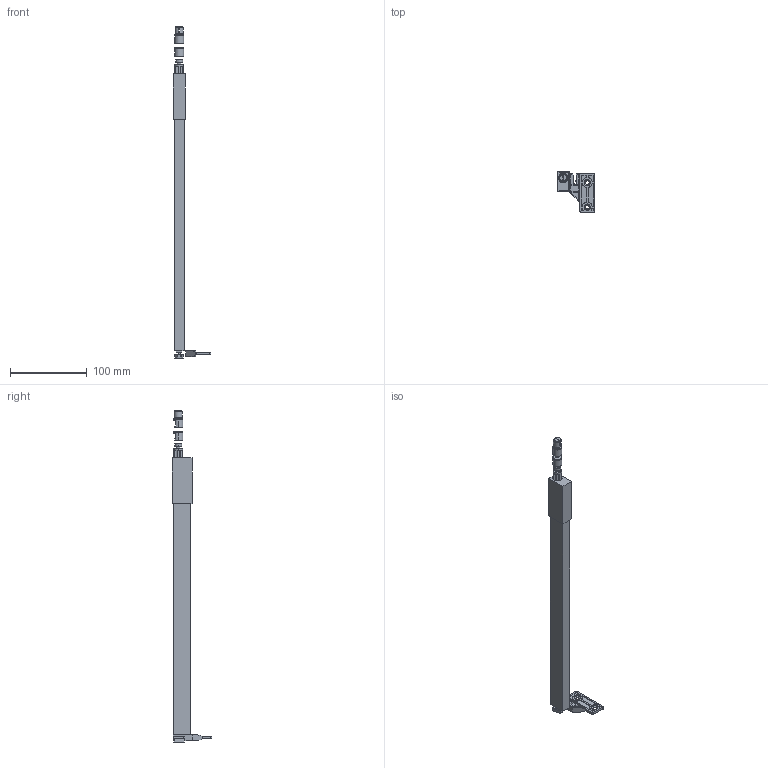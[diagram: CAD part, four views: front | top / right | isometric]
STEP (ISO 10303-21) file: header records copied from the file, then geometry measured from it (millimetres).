
FILE_DESCRIPTION (( 'STEP AP203' ), '1' );
FILE_NAME ('359373.STEP', '2026-03-06T08:25:19', ( '' ), ( '' ), 'SwSTEP 2.0', 'SolidWorks 2025', '' );
FILE_SCHEMA (( 'CONFIG_CONTROL_DESIGN' ));
Length unit declared in the file: millimetre
Products named in the file (5): StrongMax 16a18 sada relingů pro navýšení zásuvky, profil 23x13_359373; StrongMax 16a18 sada relingů pro navýšení zásuvky, přední úchyt narážecí; 359373; StrongMax 16a18 sada relingů pro navýšení zásuvky, přední úchyt na šroubek; StrongMax 16a18 sada relingů pro navýšení zásuvky, zadní úchyt LaP
Assembly tree (4 placements, depth 2):
  359373
    StrongMax 16a18 sada relingů pro navýšení zásuvky, profil 23x13_359373
    StrongMax 16a18 sada relingů pro navýšení zásuvky, přední úchyt na šroubek
    StrongMax 16a18 sada relingů pro navýšení zásuvky, přední úchyt narážecí
    StrongMax 16a18 sada relingů pro navýšení zásuvky, zadní úchyt LaP
Bounding box: 49.45 x 51.9 x 433.45 mm (x, y, z)
Volume: 117709.6 mm3; surface area: 46264.5 mm2
Topology: 6 solids, 6 shells, 343 faces, 868 edges, 566 vertices
Faces by surface type: plane 242, cylinder 77, cone 24
Entity records: 10773 total; most frequent: CARTESIAN_POINT 1796, DIRECTION 1760, ORIENTED_EDGE 1736, EDGE_CURVE 868, VECTOR 668, LINE 668, VERTEX_POINT 566, AXIS2_PLACEMENT_3D 546
